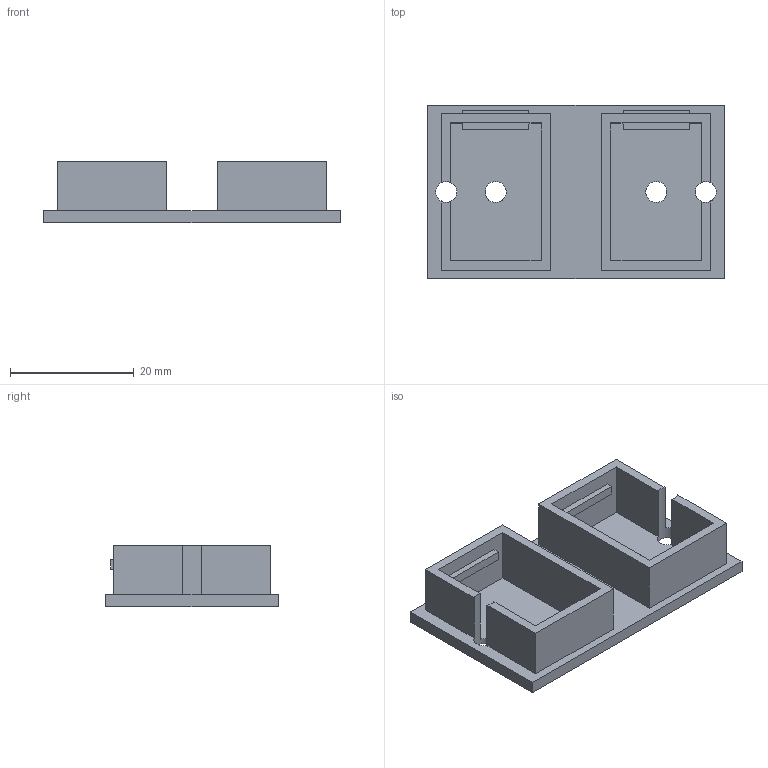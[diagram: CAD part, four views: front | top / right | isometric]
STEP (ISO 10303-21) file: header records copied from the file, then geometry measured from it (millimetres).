
FILE_DESCRIPTION(('Open CASCADE Model'),'2;1');
FILE_NAME('Open CASCADE Shape Model','2026-07-25T17:42:39',('Author'),( 'Open CASCADE'),'Open CASCADE STEP processor 7.9','build123d', 'Unknown');
FILE_SCHEMA(('AUTOMOTIVE_DESIGN { 1 0 10303 214 1 1 1 1 }'));
Length unit declared in the file: millimetre
Products named in the file (2): =>[0:1:1:2]; COMPOUND
Assembly tree (1 placements, depth 2):
  =>[0:1:1:2]
    COMPOUND
Bounding box: 48 x 28 x 10 mm (x, y, z)
Volume: 3868.6 mm3; surface area: 5742.6 mm2
Topology: 1 solids, 1 shells, 443 faces, 1218 edges, 812 vertices
Faces by surface type: extrusion 231, plane 208, cylinder 4
Full cylindrical faces by diameter (mm): 3.4 x4
Entity records: 33357 total; most frequent: CARTESIAN_POINT 11613, DIRECTION 2836, ORIENTED_EDGE 2436, PCURVE 2436, DEFINITIONAL_REPRESENTATION 2436, VECTOR 2321, LINE 2090, B_SPLINE_CURVE_WITH_KNOTS 1731
